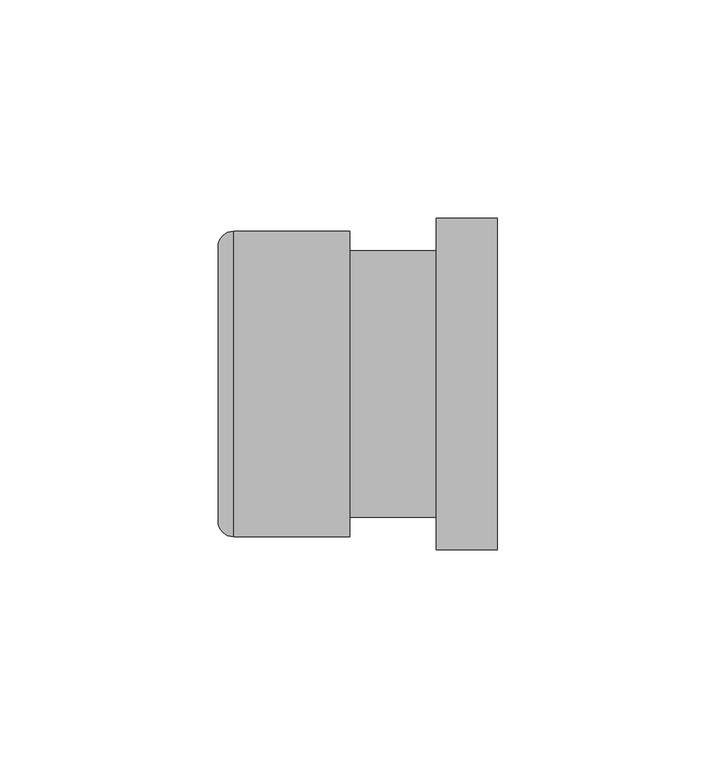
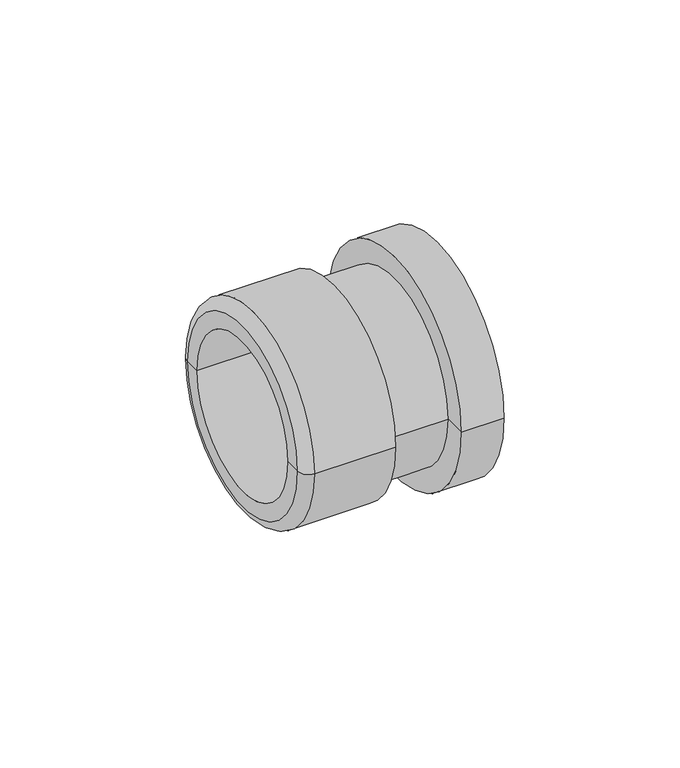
"""IFC4 building model written with IfcOpenShell, lengths in millimetres: cable carrier fitting geometry, КНС_КабельныйЗажимСКонтрагайкой_IP68_DKC : д.34 - 43мм."""

import ifcopenshell
import ifcopenshell.guid

model = None  # the IFC model being written
_history = None  # IfcOwnerHistory: only IFC2X3 demands one
_inside = {}  # id of a spatial element -> (the spatial element, [elements in it])
_under = {}  # id of a project, library or spatial element -> (it, [spatial elements below it])
_declared = {}  # id of a project -> (the project, [libraries it declares])
_typed = {}  # id of a type object -> (the type object, [elements of that type])
_made_of = {}  # id of a material, layer set ... -> (it, [elements and type objects made of it])


def new_model(schema):
    """Start an empty IFC model of exactly this schema.

    Asked for "IFC4X3", IfcOpenShell would pick the latest addendum, in which some entities
    have other attributes; the version numbers below select the first issue.
    IFC2X3 requires an IfcOwnerHistory on every rooted entity: one is made here for all.
    """
    global model, _history
    if schema == "IFC4X3":
        model = ifcopenshell.file(schema_version=(4, 3, 0, 0))
    else:
        model = ifcopenshell.file(schema=schema)
    _inside.clear()
    _under.clear()
    _declared.clear()
    _typed.clear()
    _made_of.clear()
    _history = None
    if model.schema == "IFC2X3":
        org = make("IfcOrganization", Name="unknown")
        user = make(
            "IfcPersonAndOrganization",
            ThePerson=make("IfcPerson", FamilyName="unknown"),
            TheOrganization=org,
        )
        app = make(
            "IfcApplication",
            ApplicationDeveloper=org,
            Version="unknown",
            ApplicationFullName="unknown",
            ApplicationIdentifier="unknown",
        )
        _history = make(
            "IfcOwnerHistory",
            OwningUser=user,
            OwningApplication=app,
            ChangeAction="ADDED",
            CreationDate=0,
        )
    return model


def make(cls, **values):
    """One entity of the class cls with the attributes given. An attribute that is None is left unset."""
    return model.create_entity(
        cls, **{name: value for name, value in values.items() if value is not None}
    )


def rooted(cls, **values):
    """An entity with a GlobalId (a new one), such as an element, a storey or a relation."""
    return make(cls, GlobalId=ifcopenshell.guid.new(), OwnerHistory=_history, **values)


def si_unit(unit_type, name, prefix=None):
    """IfcSIUnit, for example si_unit("LENGTHUNIT", "METRE", prefix="MILLI")."""
    return make("IfcSIUnit", UnitType=unit_type, Prefix=prefix, Name=name)


def assignment(units):
    """IfcUnitAssignment: the units of a project."""
    return None if units is None else make("IfcUnitAssignment", Units=units)


def point(xyz):
    """IfcCartesianPoint."""
    return None if xyz is None else make("IfcCartesianPoint", Coordinates=xyz)


def direction(xyz):
    """IfcDirection."""
    return None if xyz is None else make("IfcDirection", DirectionRatios=xyz)


def frame(location, z_axis=None, x_axis=None):
    """IfcAxis2Placement3D, a coordinate frame: its origin and axes. An axis left out is left unset."""
    return make(
        "IfcAxis2Placement3D",
        Location=point(location),
        Axis=direction(z_axis),
        RefDirection=direction(x_axis),
    )


def origin():
    """The frame at (0, 0, 0) with its axes left unset."""
    return frame((0.0, 0.0, 0.0))


def place(relative_to, where):
    """IfcLocalPlacement: puts the frame where relative to a parent placement (None: the world)."""
    return make(
        "IfcLocalPlacement", PlacementRelTo=relative_to, RelativePlacement=where
    )


def context(
    kind, dimensions, precision=None, world=None, true_north=None, identifier=None
):
    """IfcGeometricRepresentationContext, for example the 3D "Model" context."""
    return make(
        "IfcGeometricRepresentationContext",
        ContextIdentifier=identifier,
        ContextType=kind,
        CoordinateSpaceDimension=dimensions,
        Precision=precision,
        WorldCoordinateSystem=world,
        TrueNorth=true_north,
    )


def project(units=None, contexts=None):
    """IfcProject with its units and contexts."""
    return rooted(
        "IfcProject",
        Name="project",
        RepresentationContexts=contexts,
        UnitsInContext=assignment(units),
    )


def spatial(cls, under=None, at=None, **own):
    """A site, building, storey or space (cls), placed at a placement, below another one or the project."""
    s = rooted(cls, ObjectPlacement=at, **own)
    if under is not None:
        _under.setdefault(under.id(), (under, []))[1].append(s)
    return s


def polyline(points):
    """IfcPolyline through the points."""
    return make("IfcPolyline", Points=[point(p) for p in points])


def circle_curve(where, radius):
    """IfcCircle in the frame where."""
    return make("IfcCircle", Position=where, Radius=radius)


def ellipse_curve(where, semi_axis1, semi_axis2):
    """IfcEllipse in the frame where."""
    return make(
        "IfcEllipse", Position=where, SemiAxis1=semi_axis1, SemiAxis2=semi_axis2
    )


def trimmed(basis, trim1, trim2, sense, master):
    """IfcTrimmedCurve: the piece of a basis curve between two trims."""
    return make(
        "IfcTrimmedCurve",
        BasisCurve=basis,
        Trim1=trim1,
        Trim2=trim2,
        SenseAgreement=sense,
        MasterRepresentation=master,
    )


def shape(context_of_items, identifier, shape_type, items):
    """IfcShapeRepresentation: the items that make up one representation, for example the "Body"."""
    return make(
        "IfcShapeRepresentation",
        ContextOfItems=context_of_items,
        RepresentationIdentifier=identifier,
        RepresentationType=shape_type,
        Items=items,
    )


def source(mapping_origin, context_of_items, identifier, shape_type, items):
    """IfcRepresentationMap: a shape defined once, which mapped items show again and again."""
    return make(
        "IfcRepresentationMap",
        MappingOrigin=mapping_origin,
        MappedRepresentation=shape(context_of_items, identifier, shape_type, items),
    )


def transform(
    local_origin,
    x_axis=None,
    y_axis=None,
    z_axis=None,
    scale=None,
    scale2=None,
    scale3=None,
    uniform=True,
):
    """IfcCartesianTransformationOperator3D, or its non-uniform kind. x_axis, y_axis, z_axis: its Axis1, 2, 3."""
    if uniform:
        return make(
            "IfcCartesianTransformationOperator3D",
            Axis1=direction(x_axis),
            Axis2=direction(y_axis),
            LocalOrigin=point(local_origin),
            Scale=scale,
            Axis3=direction(z_axis),
        )
    return make(
        "IfcCartesianTransformationOperator3DnonUniform",
        Axis1=direction(x_axis),
        Axis2=direction(y_axis),
        LocalOrigin=point(local_origin),
        Scale=scale,
        Axis3=direction(z_axis),
        Scale2=scale2,
        Scale3=scale3,
    )


def mapped(mapping_source, mapping_target):
    """IfcMappedItem: shows the shape of a source again, moved by a transform."""
    return make(
        "IfcMappedItem", MappingSource=mapping_source, MappingTarget=mapping_target
    )


def made_of(thing, what):
    """Note that an element or type object is made of a material, layer set ...; save() writes the relation."""
    if what is not None:
        _made_of.setdefault(what.id(), (what, []))[1].append(thing)
    return thing


def element(
    cls,
    number,
    at=None,
    inside=None,
    cuts=None,
    type_object=None,
    material=None,
    context=None,
    identifier="Body",
    shape_type=None,
    held_by="IfcProductDefinitionShape",
    body=None,
    shapes=None,
    **own,
):
    """One element of the class cls, such as IfcWall. Its Tag is "e" and its number.

    at: its placement. inside: the storey or other place that contains it. cuts: it is an
    opening in that element (IfcRelVoidsElement). A single representation is given by context,
    identifier, shape_type and body (its items); several are given by shapes. held_by: the class
    of the entity that holds the representations. save() writes the other relations.
    """
    e = rooted(cls, Tag="e%d" % number, ObjectPlacement=at, **own)
    if body is not None:
        shapes = [shape(context, identifier, shape_type, body)]
    if shapes is not None:
        e.Representation = make(held_by, Representations=shapes)
    if inside is not None:
        _inside.setdefault(inside.id(), (inside, []))[1].append(e)
    if cuts is not None:
        rooted(
            "IfcRelVoidsElement", RelatingBuildingElement=cuts, RelatedOpeningElement=e
        )
    if type_object is not None:
        _typed.setdefault(type_object.id(), (type_object, []))[1].append(e)
    return made_of(e, material)


def aggregate(whole, parts):
    """IfcRelAggregates: a whole, such as a stair, and the parts it consists of."""
    return rooted("IfcRelAggregates", RelatingObject=whole, RelatedObjects=parts)


def save(model, path):
    """Write the relations noted so far, then the file.

    IfcRelAggregates (storeys below a building ...), IfcRelContainedInSpatialStructure (elements
    in a storey), IfcRelDefinesByType, IfcRelAssociatesMaterial and IfcRelDeclares: one each for
    every whole, place, type object, material and project.
    """
    for whole, parts in _under.values():
        aggregate(whole, parts)
    for where, things in _inside.values():
        rooted(
            "IfcRelContainedInSpatialStructure",
            RelatedElements=things,
            RelatingStructure=where,
        )
    for kind, things in _typed.values():
        rooted("IfcRelDefinesByType", RelatedObjects=things, RelatingType=kind)
    for what, things in _made_of.values():
        rooted("IfcRelAssociatesMaterial", RelatedObjects=things, RelatingMaterial=what)
    for by, libraries in _declared.values():
        rooted("IfcRelDeclares", RelatingContext=by, RelatedDefinitions=libraries)
    model.write(path)


def plane_surface(at):
    """IfcPlane: the flat surface through the origin of the frame at, square to its z axis."""
    return make("IfcPlane", Position=at)


def cylinder_surface(at, radius):
    """IfcCylindricalSurface: all points at the distance radius from the z axis of the frame at."""
    return make("IfcCylindricalSurface", Position=at, Radius=radius)


def revolved_surface(curve, axis_point, axis_direction):
    """IfcSurfaceOfRevolution: the curve turned about the line through axis_point along axis_direction."""
    return make(
        "IfcSurfaceOfRevolution",
        SweptCurve=make("IfcArbitraryOpenProfileDef", ProfileType="CURVE", Curve=curve),
        AxisPosition=make("IfcAxis1Placement", Location=point(axis_point), Axis=direction(axis_direction)),
    )


def advanced_brep(points, edges, surfaces, faces):
    """IfcAdvancedBrep: a solid bounded by faces that lie on surfaces and meet in shared edges.

    An edge is (start, end): straight between two places in points (the first is 0);
    or (start, end, curve); or (start, end, curve, False) where it runs against its curve.
    A face is (place in surfaces, loops), or (place, loops, False) where it looks against
    its surface's normal. A loop lists edges by number (the first is 1), with a minus sign
    where the edge is run from its end to its start. The first loop is the outer one.
    """
    corners = [point(p) for p in points]
    vertices = [make("IfcVertexPoint", VertexGeometry=c) for c in corners]
    made = []
    for start, end, *more in edges:
        made.append(
            make(
                "IfcEdgeCurve",
                EdgeStart=vertices[start],
                EdgeEnd=vertices[end],
                EdgeGeometry=more[0] if more else make("IfcPolyline", Points=[corners[start], corners[end]]),
                SameSense=more[1] if len(more) > 1 else True,
            )
        )
    hull = []
    for where, loops, *sense in faces:
        bounds = []
        for j, loop in enumerate(loops):
            ring = [make("IfcOrientedEdge", EdgeElement=made[abs(k) - 1], Orientation=k > 0) for k in loop]
            bounds.append(
                make(
                    "IfcFaceOuterBound" if j == 0 else "IfcFaceBound",
                    Bound=make("IfcEdgeLoop", EdgeList=ring),
                    Orientation=True,
                )
            )
        hull.append(make("IfcAdvancedFace", Bounds=bounds, FaceSurface=surfaces[where], SameSense=sense[0] if sense else True))
    return make("IfcAdvancedBrep", Outer=make("IfcClosedShell", CfsFaces=hull))


def cable_carrier_fitting_76a3004d(model_context):
    return source(origin(), model_context, "Body", "AdvancedBrep", [
        advanced_brep(
        [(0.0, -35.0, 0.0), (0.0, 35.0, 0.0), (0.0, 30.5, 0.0), (0.0, -30.5, 0.0), (-26.539955, -35.0, 0.0), (-26.539955, 35.0, 0.0), (-30.1, -31.439955, 0.0), (-30.1, 31.439955, 0.0), (-30.1, -26.0, 0.0), (-30.1, 26.0, 0.0), (33.9, -26.0, 0.0), (33.9, 26.0, 0.0), (33.9, -38.0, 0.0), (33.9, 38.0, 0.0), (19.9, -38.0, 0.0), (19.9, 38.0, 0.0), (19.9, -30.5, 0.0), (19.9, 30.5, 0.0)],
        [
            (0, 1, circle_curve(frame((0.0, 0.0, 0.0), z_axis=(1.0, 0.0, 0.0), x_axis=(0.0, 1.0, 0.0)), 35.0)),
            (1, 2),
            (2, 3, circle_curve(frame((0.0, 0.0, 0.0), z_axis=(-1.0, 0.0, 0.0), x_axis=(0.0, 1.0, 0.0)), 30.5)),
            (3, 0),
            (1, 0, circle_curve(frame((0.0, 0.0, 0.0), z_axis=(1.0, 0.0, 0.0), x_axis=(0.0, 1.0, 0.0)), 35.0)),
            (3, 2, circle_curve(frame((0.0, 0.0, 0.0), z_axis=(-1.0, 0.0, 0.0), x_axis=(0.0, 1.0, 0.0)), 30.5)),
            (4, 5, circle_curve(frame((-26.539955, 0.0, 0.0), z_axis=(1.0, 0.0, 0.0), x_axis=(0.0, 1.0, 0.0)), 35.0)),
            (5, 1),
            (0, 4),
            (5, 4, circle_curve(frame((-26.539955, 0.0, 0.0), z_axis=(1.0, 0.0, 0.0), x_axis=(0.0, 1.0, 0.0)), 35.0)),
            (6, 7, circle_curve(frame((-30.1, 0.0, 0.0), z_axis=(1.0, 0.0, 0.0), x_axis=(0.0, 1.0, 0.0)), 31.439955)),
            (7, 5, circle_curve(frame((-26.539955, 31.439955, 0.0), z_axis=(0.0, 0.0, -1.0), x_axis=(1.0, 0.0, 0.0)), 3.560045)),
            (4, 6, circle_curve(frame((-26.539955, -31.439955, 0.0), z_axis=(0.0, 0.0, -1.0), x_axis=(1.0, 0.0, 0.0)), 3.560045)),
            (7, 6, circle_curve(frame((-30.1, 0.0, 0.0), z_axis=(1.0, 0.0, 0.0), x_axis=(0.0, 1.0, 0.0)), 31.439955)),
            (8, 9, circle_curve(frame((-30.1, 0.0, 0.0), z_axis=(1.0, 0.0, 0.0), x_axis=(0.0, 1.0, 0.0)), 26.0)),
            (9, 7),
            (6, 8),
            (9, 8, circle_curve(frame((-30.1, 0.0, 0.0), z_axis=(1.0, 0.0, 0.0), x_axis=(0.0, 1.0, 0.0)), 26.0)),
            (10, 11, circle_curve(frame((33.9, 0.0, 0.0), z_axis=(1.0, 0.0, 0.0), x_axis=(0.0, 1.0, 0.0)), 26.0)),
            (11, 9),
            (8, 10),
            (11, 10, circle_curve(frame((33.9, 0.0, 0.0), z_axis=(1.0, 0.0, 0.0), x_axis=(0.0, 1.0, 0.0)), 26.0)),
            (12, 13, circle_curve(frame((33.9, 0.0, 0.0), z_axis=(1.0, 0.0, 0.0), x_axis=(0.0, 1.0, 0.0)), 38.0)),
            (13, 11),
            (10, 12),
            (13, 12, circle_curve(frame((33.9, 0.0, 0.0), z_axis=(1.0, 0.0, 0.0), x_axis=(0.0, 1.0, 0.0)), 38.0)),
            (14, 15, circle_curve(frame((19.9, 0.0, 0.0), z_axis=(1.0, 0.0, 0.0), x_axis=(0.0, 1.0, 0.0)), 38.0)),
            (15, 13),
            (12, 14),
            (15, 14, circle_curve(frame((19.9, 0.0, 0.0), z_axis=(1.0, 0.0, 0.0), x_axis=(0.0, 1.0, 0.0)), 38.0)),
            (16, 17, circle_curve(frame((19.9, 0.0, 0.0), z_axis=(1.0, 0.0, 0.0), x_axis=(0.0, 1.0, 0.0)), 30.5)),
            (17, 15),
            (14, 16),
            (17, 16, circle_curve(frame((19.9, 0.0, 0.0), z_axis=(1.0, 0.0, 0.0), x_axis=(0.0, 1.0, 0.0)), 30.5)),
            (2, 17),
            (16, 3),
        ],
        [
            plane_surface(frame((0.0, 0.0, 0.0), z_axis=(1.0, 0.0, 0.0), x_axis=(0.0, 1.0, 0.0))),
            cylinder_surface(frame((1558.3, 0.0, 0.0), z_axis=(-1.0, 0.0, 0.0), x_axis=(0.0, 1.0, 0.0)), 35.0),
            revolved_surface(trimmed(ellipse_curve(frame((-26.539955, 31.439955, 0.0), z_axis=(0.0, 0.0, 1.0), x_axis=(1.0, 0.0, 0.0)), 3.560045, 3.560045), [point((-26.539955, 35.0, 0.0))], [point((-30.1, 31.439955, 0.0))], True, "CARTESIAN"), (1558.3, 0.0, 0.0), (-1.0, 0.0, 0.0)),
            plane_surface(frame((-30.1, 0.0, 0.0), z_axis=(-1.0, 0.0, 0.0), x_axis=(0.0, 1.0, 0.0))),
            revolved_surface(polyline([(-30.09999999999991, 26.0, 0.0), (33.90000000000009, 26.0, 0.0)]), (1558.3, 0.0, 0.0), (-1.0, 0.0, 0.0)),
            plane_surface(frame((33.9, 0.0, 0.0), z_axis=(1.0, 0.0, 0.0), x_axis=(0.0, 1.0, 0.0))),
            cylinder_surface(frame((1558.3, 0.0, 0.0), z_axis=(-1.0, 0.0, 0.0), x_axis=(0.0, 1.0, 0.0)), 38.0),
            plane_surface(frame((19.9, 0.0, 0.0), z_axis=(-1.0, 0.0, 0.0), x_axis=(0.0, 1.0, 0.0))),
            cylinder_surface(frame((1558.3, 0.0, 0.0), z_axis=(-1.0, 0.0, 0.0), x_axis=(0.0, 1.0, 0.0)), 30.5),
        ],
        [
            (0, [[1, 2, 3, 4]]),
            (0, [[5, -4, 6, -2]]),
            (1, [[7, 8, -1, 9]]),
            (1, [[10, -9, -5, -8]]),
            (2, [[11, 12, -7, 13]]),
            (2, [[14, -13, -10, -12]]),
            (3, [[15, 16, -11, 17]]),
            (3, [[18, -17, -14, -16]]),
            (4, [[19, 20, -15, 21]]),
            (4, [[22, -21, -18, -20]]),
            (5, [[23, 24, -19, 25]]),
            (5, [[26, -25, -22, -24]]),
            (6, [[27, 28, -23, 29]]),
            (6, [[30, -29, -26, -28]]),
            (7, [[31, 32, -27, 33]]),
            (7, [[34, -33, -30, -32]]),
            (8, [[-3, 35, -31, 36]]),
            (8, [[-6, -36, -34, -35]]),
        ],
    ),
    ])


if __name__ == "__main__":
    model = new_model("IFC4")
    model_context = context("Model", 3, world=origin())
    ifc_project = project(units=[si_unit("LENGTHUNIT", "METRE", prefix="MILLI")], contexts=[model_context])
    site = spatial("IfcSite", under=ifc_project)
    building = spatial("IfcBuilding", under=site)
    placement = place(None, origin())
    cable_carrier_fitting_shape = cable_carrier_fitting_76a3004d(model_context)
    element("IfcCableCarrierFitting", 1, ObjectType="КНС_КабельныйЗажимСКонтрагайкой_IP68_DKC : д.34 - 43мм", at=placement, inside=building, context=model_context, shape_type="MappedRepresentation", body=[
        mapped(cable_carrier_fitting_shape, transform((0.0, 0.0, 0.0), x_axis=(1.0, 0.0, 0.0), y_axis=(0.0, 1.0, 0.0), z_axis=(0.0, 0.0, 1.0))),
    ])
    save(model, "model.ifc")
